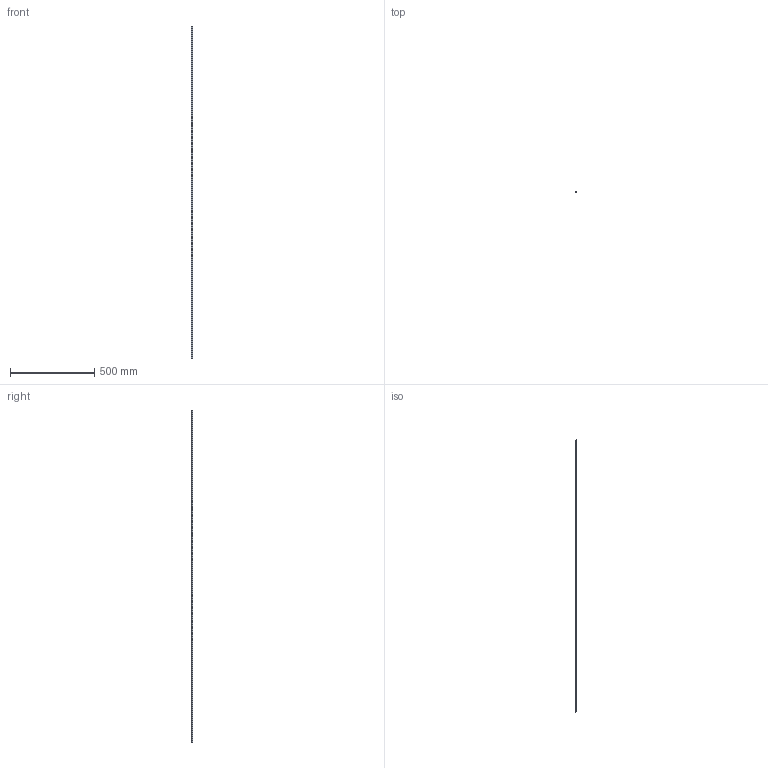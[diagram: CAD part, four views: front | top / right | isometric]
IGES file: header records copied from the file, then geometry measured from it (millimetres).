
Start section: 3D InterOp IGES (v. 2019 1.0.2), Spatial Corp. Copyright (c) 1999-2017.
Global section: file name: SS NMS12 1976.igs; native system: Spatial Corp.; preprocessor: 3D InterOp GENERIC/IGES 3.0; author: Noname; organization: Noname; date: 20220628.112208; units: millimetre
Bounding box: 11.63 x 7.7 x 1976 mm (x, y, z)
Surface area: 83464.7 mm2 (no closed solid volume)
Topology: 0 solids, 0 shells, 250 faces, 1224 edges, 1224 vertices
Faces by surface type: revolution 190, extrusion 60
